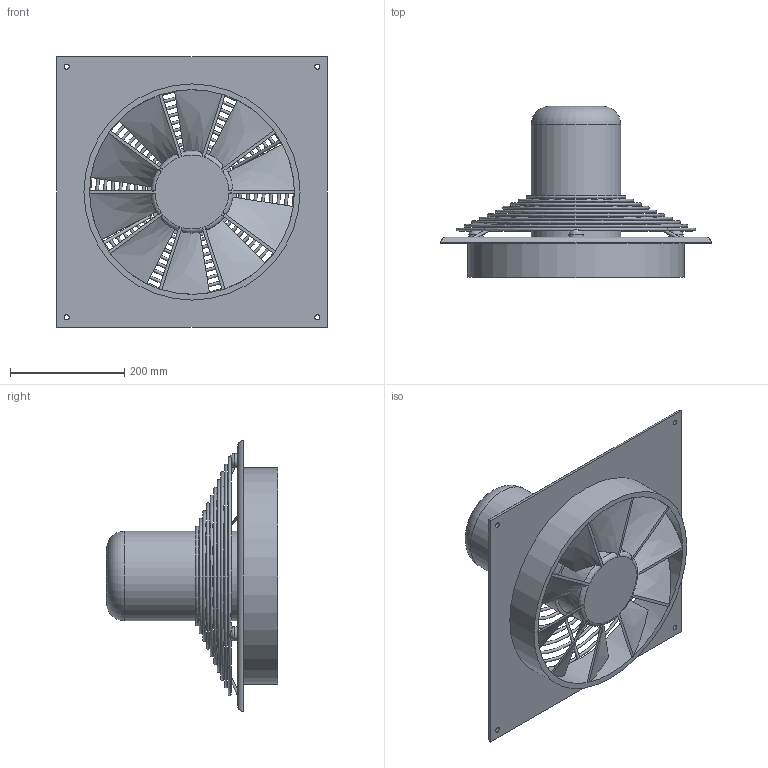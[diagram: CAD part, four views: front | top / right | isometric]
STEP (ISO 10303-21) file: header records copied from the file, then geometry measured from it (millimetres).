
FILE_DESCRIPTION(/* description */ (''),/* implementation_level */ '2;1');
FILE_NAME(/* name */ 'Z:\Output\HQD_355-4-2-01134-021.stp',/* time_stamp */ '2020-05-11T13:45:42+02:00',/* author */ ('pareshmistry'),/* organization */ (''),/* preprocessor_version */ 'ST-DEVELOPER v17.2',/* originating_system */ 'Autodesk Inventor 2019',/* authorisation */ '');
FILE_SCHEMA (('AP203_CONFIGURATION_CONTROLLED_3D_DESIGN_OF_MECHANICAL_PARTS_AND_ASSEMBLIES_MIM_LF { 1 0 10303 203 3 1 4 }','AUTOMOTIVE_DESIGN { 1 0 10303 214 3 1 1 }'));
Length unit declared in the file: millimetre
Products named in the file (1): HQW EC 450
Bounding box: 475 x 300 x 475 mm (x, y, z)
Volume: 7821377.3 mm3; surface area: 904258.2 mm2
Topology: 11 solids, 11 shells, 105 faces, 332 edges, 236 vertices
Faces by surface type: bspline 33, plane 28, cylinder 23, torus 21
Full cylindrical faces by diameter (mm): 5 x6, 9 x4, 25 x3, 144 x1, 157 x1, 359 x1, 379 x1
Entity records: 5447 total; most frequent: CARTESIAN_POINT 2451, ORIENTED_EDGE 704, DIRECTION 504, EDGE_CURVE 352, VERTEX_POINT 256, AXIS2_PLACEMENT_3D 207, EDGE_LOOP 126, B_SPLINE_CURVE_WITH_KNOTS 125
